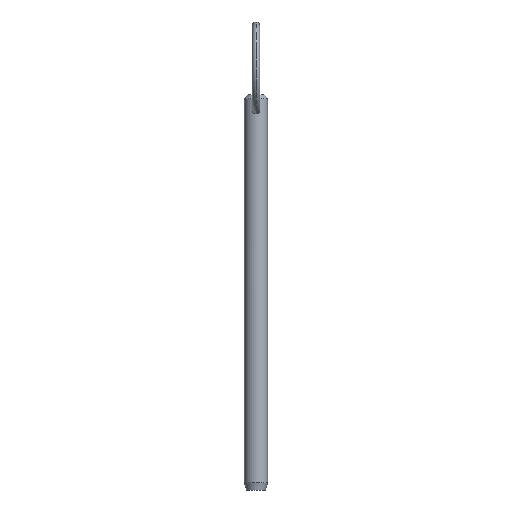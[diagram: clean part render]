
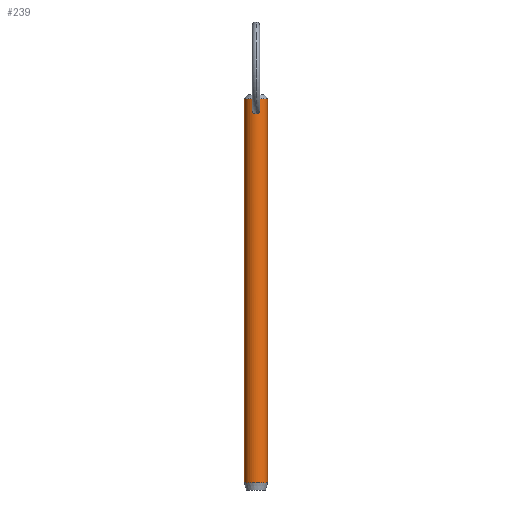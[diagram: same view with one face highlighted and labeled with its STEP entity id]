
A CAD part, front view. The second image highlights one B-rep face of the part: STEP entity #239.
In plain terms, the highlighted cylindrical face has radius 3.175 mm (diameter 6.35 mm), a partial arc.
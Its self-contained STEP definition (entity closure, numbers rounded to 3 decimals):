
#11 = FACE_OUTER_BOUND ( 'NONE', #242, .T. ) ;
#15 = CARTESIAN_POINT ( 'NONE',  ( -0.067, -3.175, 96.482 ) ) ;
#17 = CARTESIAN_POINT ( 'NONE',  ( 0., -3.175, 96.482 ) ) ;
#21 = CYLINDRICAL_SURFACE ( 'NONE', #437, 3.175 ) ;
#22 = VERTEX_POINT ( 'NONE', #241 ) ;
#31 = VERTEX_POINT ( 'NONE', #167 ) ;
#33 = CARTESIAN_POINT ( 'NONE',  ( 0.51, -3.136, 96.334 ) ) ;
#35 = ORIENTED_EDGE ( 'NONE', *, *, #243, .T. ) ;
#36 = CARTESIAN_POINT ( 'NONE',  ( 0.628, -3.114, 94.604 ) ) ;
#48 = CARTESIAN_POINT ( 'NONE',  ( -0.983, -3.02, 95.159 ) ) ;
#68 = VERTEX_POINT ( 'NONE', #431 ) ;
#69 = CARTESIAN_POINT ( 'NONE',  ( 0.134, -3.175, 96.482 ) ) ;
#70 = CARTESIAN_POINT ( 'NONE',  ( 0.268, -3.166, 94.429 ) ) ;
#75 = EDGE_CURVE ( 'NONE', #31, #22, #469, .T. ) ;
#76 = B_SPLINE_CURVE_WITH_KNOTS ( 'NONE', 3,
 ( #300, #409, #82, #339, #116, #451, #411, #48, #303, #405, #379, #156, #122, #95, #464, #164, #15, #17 ),
 .UNSPECIFIED., .F., .F.,
 ( 4, 2, 2, 2, 2, 2, 2, 2, 4 ),
 ( 0.006, 0.006, 0.007, 0.007, 0.008, 0.008, 0.009, 0.009, 0.009 ),
 .UNSPECIFIED. ) ;
#82 = CARTESIAN_POINT ( 'NONE',  ( -0.269, -3.166, 94.429 ) ) ;
#95 = CARTESIAN_POINT ( 'NONE',  ( -0.328, -3.159, 96.421 ) ) ;
#108 = CARTESIAN_POINT ( 'NONE',  ( 0., -3.175, 96.482 ) ) ;
#116 = CARTESIAN_POINT ( 'NONE',  ( -0.629, -3.114, 94.605 ) ) ;
#118 = VERTEX_POINT ( 'NONE', #210 ) ;
#122 = CARTESIAN_POINT ( 'NONE',  ( -0.508, -3.136, 96.335 ) ) ;
#129 = ORIENTED_EDGE ( 'NONE', *, *, #224, .F. ) ;
#133 = VECTOR ( 'NONE', #483, 1000. ) ;
#135 = DIRECTION ( 'NONE',  ( 1., 0., 0. ) ) ;
#142 = DIRECTION ( 'NONE',  ( 0., 0., -1. ) ) ;
#144 = DIRECTION ( 'NONE',  ( -1., 0., 0. ) ) ;
#146 = CARTESIAN_POINT ( 'NONE',  ( 0.515, -3.135, 94.53 ) ) ;
#151 = EDGE_CURVE ( 'NONE', #196, #118, #458, .T. ) ;
#154 = EDGE_LOOP ( 'NONE', ( #327, #252 ) ) ;
#156 = CARTESIAN_POINT ( 'NONE',  ( -0.615, -3.116, 96.253 ) ) ;
#164 = CARTESIAN_POINT ( 'NONE',  ( -0.133, -3.173, 96.474 ) ) ;
#167 = CARTESIAN_POINT ( 'NONE',  ( 3.175, 0., 98.58 ) ) ;
#182 = DIRECTION ( 'NONE',  ( -1., 0., 0. ) ) ;
#196 = VERTEX_POINT ( 'NONE', #364 ) ;
#204 = ORIENTED_EDGE ( 'NONE', *, *, #75, .T. ) ;
#205 = DIRECTION ( 'NONE',  ( 0., 0., -1. ) ) ;
#208 = FACE_BOUND ( 'NONE', #154, .T. ) ;
#210 = CARTESIAN_POINT ( 'NONE',  ( 0., -3.175, 94.403 ) ) ;
#213 = CARTESIAN_POINT ( 'NONE',  ( 0.992, -3.016, 95.694 ) ) ;
#215 = CARTESIAN_POINT ( 'NONE',  ( -3.175, 0., -5.92 ) ) ;
#218 = CARTESIAN_POINT ( 'NONE',  ( -3.175, 0., 94. ) ) ;
#219 = CIRCLE ( 'NONE', #466, 3.175 ) ;
#222 = CARTESIAN_POINT ( 'NONE',  ( 0., 0., -5.92 ) ) ;
#223 = DIRECTION ( 'NONE',  ( 0., 0., 1. ) ) ;
#224 = EDGE_CURVE ( 'NONE', #31, #68, #392, .T. ) ;
#236 = VERTEX_POINT ( 'NONE', #215 ) ;
#239 = ADVANCED_FACE ( 'NONE', ( #11, #208 ), #21, .T. ) ;
#241 = CARTESIAN_POINT ( 'NONE',  ( -3.175, 0., 98.58 ) ) ;
#242 = EDGE_LOOP ( 'NONE', ( #129, #204, #35, #421 ) ) ;
#243 = EDGE_CURVE ( 'NONE', #22, #236, #264, .T. ) ;
#252 = ORIENTED_EDGE ( 'NONE', *, *, #378, .T. ) ;
#257 = CARTESIAN_POINT ( 'NONE',  ( 0., 0., 94. ) ) ;
#260 = CARTESIAN_POINT ( 'NONE',  ( 0.888, -3.049, 94.909 ) ) ;
#264 = LINE ( 'NONE', #218, #133 ) ;
#266 = AXIS2_PLACEMENT_3D ( 'NONE', #282, #205, #135 ) ;
#280 = EDGE_CURVE ( 'NONE', #236, #68, #219, .T. ) ;
#282 = CARTESIAN_POINT ( 'NONE',  ( 0., 0., 98.58 ) ) ;
#289 = CARTESIAN_POINT ( 'NONE',  ( 0.269, -3.166, 96.45 ) ) ;
#300 = CARTESIAN_POINT ( 'NONE',  ( 0., -3.175, 94.403 ) ) ;
#303 = CARTESIAN_POINT ( 'NONE',  ( -1.004, -3.012, 95.295 ) ) ;
#322 = VECTOR ( 'NONE', #397, 1000. ) ;
#327 = ORIENTED_EDGE ( 'NONE', *, *, #151, .T. ) ;
#328 = CARTESIAN_POINT ( 'NONE',  ( 0., -3.175, 94.403 ) ) ;
#334 = CARTESIAN_POINT ( 'NONE',  ( 3.175, 0., 94. ) ) ;
#339 = CARTESIAN_POINT ( 'NONE',  ( -0.516, -3.135, 94.531 ) ) ;
#362 = CARTESIAN_POINT ( 'NONE',  ( 0.815, -3.07, 94.795 ) ) ;
#363 = CARTESIAN_POINT ( 'NONE',  ( 0.982, -3.02, 95.158 ) ) ;
#364 = CARTESIAN_POINT ( 'NONE',  ( 0., -3.175, 96.482 ) ) ;
#378 = EDGE_CURVE ( 'NONE', #118, #196, #76, .T. ) ;
#379 = CARTESIAN_POINT ( 'NONE',  ( -0.882, -3.055, 95.96 ) ) ;
#392 = LINE ( 'NONE', #334, #322 ) ;
#397 = DIRECTION ( 'NONE',  ( 0., 0., -1. ) ) ;
#405 = CARTESIAN_POINT ( 'NONE',  ( -0.991, -3.016, 95.696 ) ) ;
#409 = CARTESIAN_POINT ( 'NONE',  ( -0.134, -3.175, 94.403 ) ) ;
#411 = CARTESIAN_POINT ( 'NONE',  ( -0.888, -3.049, 94.909 ) ) ;
#421 = ORIENTED_EDGE ( 'NONE', *, *, #280, .T. ) ;
#431 = CARTESIAN_POINT ( 'NONE',  ( 3.175, 0., -5.92 ) ) ;
#437 = AXIS2_PLACEMENT_3D ( 'NONE', #257, #142, #144 ) ;
#440 = CARTESIAN_POINT ( 'NONE',  ( 1.004, -3.012, 95.293 ) ) ;
#443 = CARTESIAN_POINT ( 'NONE',  ( 0.617, -3.116, 96.251 ) ) ;
#451 = CARTESIAN_POINT ( 'NONE',  ( -0.815, -3.07, 94.795 ) ) ;
#458 = B_SPLINE_CURVE_WITH_KNOTS ( 'NONE', 3,
 ( #108, #69, #289, #33, #443, #482, #213, #440, #363, #260, #362, #36, #146, #70, #485, #328 ),
 .UNSPECIFIED., .F., .F.,
 ( 4, 2, 2, 2, 2, 2, 2, 4 ),
 ( 0.003, 0.003, 0.004, 0.004, 0.005, 0.005, 0.006, 0.006 ),
 .UNSPECIFIED. ) ;
#464 = CARTESIAN_POINT ( 'NONE',  ( -0.264, -3.165, 96.444 ) ) ;
#466 = AXIS2_PLACEMENT_3D ( 'NONE', #222, #223, #182 ) ;
#469 = CIRCLE ( 'NONE', #266, 3.175 ) ;
#482 = CARTESIAN_POINT ( 'NONE',  ( 0.884, -3.055, 95.957 ) ) ;
#483 = DIRECTION ( 'NONE',  ( 0., 0., -1. ) ) ;
#485 = CARTESIAN_POINT ( 'NONE',  ( 0.134, -3.175, 94.403 ) ) ;
